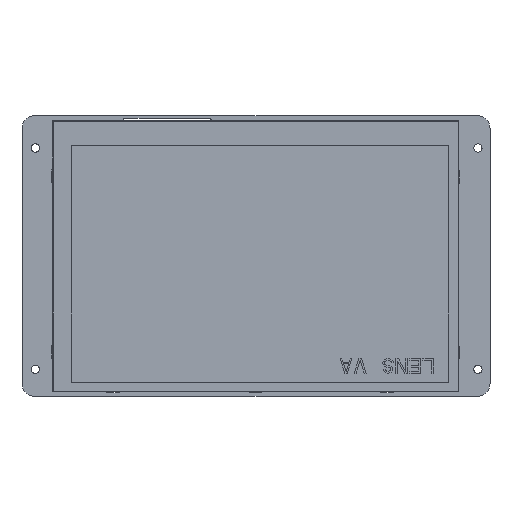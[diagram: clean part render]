
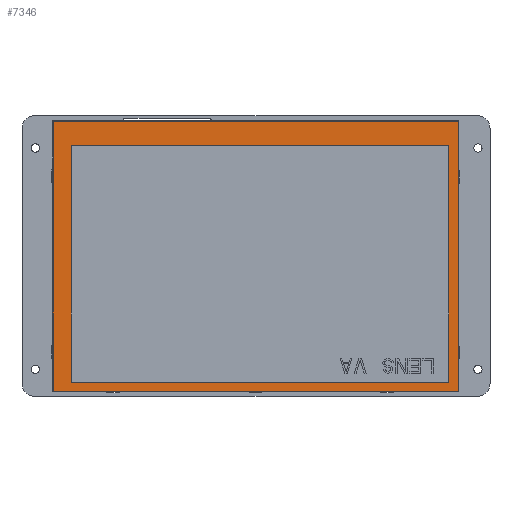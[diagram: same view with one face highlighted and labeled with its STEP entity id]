
A CAD part, front view. The second image highlights one B-rep face of the part: STEP entity #7346.
In plain terms, the highlighted planar face has unit normal (0, -1, 0) as drawn and (0, 1, 0) by its records, which use the part's own axes.
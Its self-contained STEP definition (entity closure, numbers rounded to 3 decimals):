
#5557=DIRECTION('',(0.,0.,1.));
#5558=VECTOR('',#5557,107.8);
#5559=CARTESIAN_POINT('',(-80.9,1.775,-53.9));
#5560=LINE('',#5559,#5558);
#5561=DIRECTION('',(-1.,0.,0.));
#5562=VECTOR('',#5561,161.8);
#5563=CARTESIAN_POINT('',(80.9,1.775,-53.9));
#5564=LINE('',#5563,#5562);
#5565=DIRECTION('',(0.,0.,-1.));
#5566=VECTOR('',#5565,107.8);
#5567=CARTESIAN_POINT('',(80.9,1.775,53.9));
#5568=LINE('',#5567,#5566);
#5569=DIRECTION('',(1.,0.,0.));
#5570=VECTOR('',#5569,161.8);
#5571=CARTESIAN_POINT('',(-80.9,1.775,53.9));
#5572=LINE('',#5571,#5570);
#5573=DIRECTION('',(0.,0.,1.));
#5574=VECTOR('',#5573,94.6);
#5575=CARTESIAN_POINT('',(-77.13,1.775,-50.3));
#5576=LINE('',#5575,#5574);
#5577=DIRECTION('',(1.,0.,0.));
#5578=VECTOR('',#5577,150.76);
#5579=CARTESIAN_POINT('',(-77.13,1.775,44.3));
#5580=LINE('',#5579,#5578);
#5581=DIRECTION('',(0.,0.,-1.));
#5582=VECTOR('',#5581,94.6);
#5583=CARTESIAN_POINT('',(73.63,1.775,44.3));
#5584=LINE('',#5583,#5582);
#5585=DIRECTION('',(-1.,0.,0.));
#5586=VECTOR('',#5585,150.76);
#5587=CARTESIAN_POINT('',(73.63,1.775,-50.3));
#5588=LINE('',#5587,#5586);
#6829=CARTESIAN_POINT('',(-80.9,1.775,-53.9));
#6830=CARTESIAN_POINT('',(-80.9,1.775,53.9));
#6831=VERTEX_POINT('',#6829);
#6832=VERTEX_POINT('',#6830);
#6833=CARTESIAN_POINT('',(80.9,1.775,53.9));
#6834=VERTEX_POINT('',#6833);
#6835=CARTESIAN_POINT('',(80.9,1.775,-53.9));
#6836=VERTEX_POINT('',#6835);
#7045=CARTESIAN_POINT('',(-77.13,1.775,-50.3));
#7046=CARTESIAN_POINT('',(-77.13,1.775,44.3));
#7047=VERTEX_POINT('',#7045);
#7048=VERTEX_POINT('',#7046);
#7049=CARTESIAN_POINT('',(73.63,1.775,44.3));
#7050=VERTEX_POINT('',#7049);
#7051=CARTESIAN_POINT('',(73.63,1.775,-50.3));
#7052=VERTEX_POINT('',#7051);
#7325=CARTESIAN_POINT('',(0.,1.775,0.));
#7326=DIRECTION('',(0.,1.,0.));
#7327=DIRECTION('',(1.,0.,0.));
#7328=AXIS2_PLACEMENT_3D('',#7325,#7326,#7327);
#7329=PLANE('',#7328);
#7330=ORIENTED_EDGE('',*,*,#7277,.F.);
#7331=ORIENTED_EDGE('',*,*,#7292,.F.);
#7332=ORIENTED_EDGE('',*,*,#7306,.F.);
#7333=ORIENTED_EDGE('',*,*,#7319,.F.);
#7334=EDGE_LOOP('',(#7330,#7331,#7332,#7333));
#7335=FACE_OUTER_BOUND('',#7334,.F.);
#7337=ORIENTED_EDGE('',*,*,#7336,.T.);
#7339=ORIENTED_EDGE('',*,*,#7338,.T.);
#7341=ORIENTED_EDGE('',*,*,#7340,.T.);
#7343=ORIENTED_EDGE('',*,*,#7342,.T.);
#7344=EDGE_LOOP('',(#7337,#7339,#7341,#7343));
#7345=FACE_BOUND('',#7344,.F.);
#7277=EDGE_CURVE('',#6831,#6832,#5560,.T.);
#7292=EDGE_CURVE('',#6836,#6831,#5564,.T.);
#7306=EDGE_CURVE('',#6834,#6836,#5568,.T.);
#7319=EDGE_CURVE('',#6832,#6834,#5572,.T.);
#7336=EDGE_CURVE('',#7047,#7048,#5576,.T.);
#7338=EDGE_CURVE('',#7048,#7050,#5580,.T.);
#7340=EDGE_CURVE('',#7050,#7052,#5584,.T.);
#7342=EDGE_CURVE('',#7052,#7047,#5588,.T.);
#7346=ADVANCED_FACE('',(#7335,#7345),#7329,.T.);
